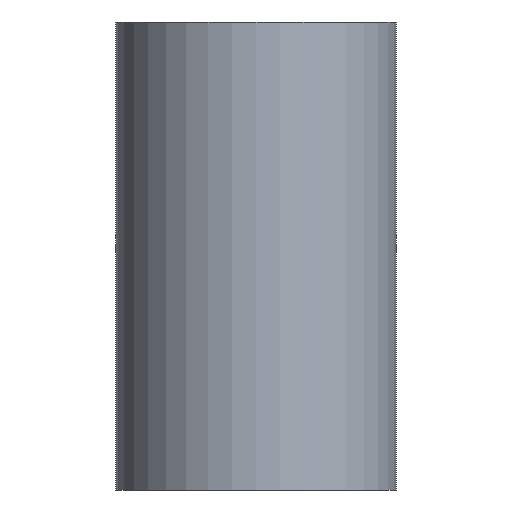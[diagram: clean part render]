
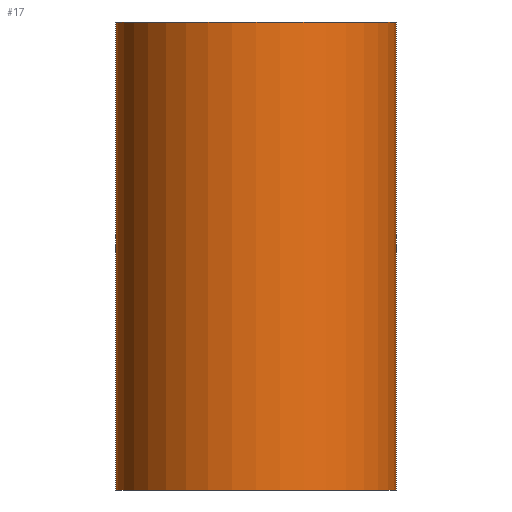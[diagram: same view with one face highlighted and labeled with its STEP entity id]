
A CAD part, front view. The second image highlights one B-rep face of the part: STEP entity #17.
In plain terms, the highlighted cylindrical face has radius 12 mm (diameter 24 mm), a full revolution.
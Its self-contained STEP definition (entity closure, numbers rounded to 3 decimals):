
#17 = ADVANCED_FACE('',(#18),#32,.T.);
#18 = FACE_BOUND('',#19,.F.);
#19 = EDGE_LOOP('',(#20,#50,#77,#78));
#20 = ORIENTED_EDGE('',*,*,#21,.T.);
#21 = EDGE_CURVE('',#22,#24,#26,.T.);
#22 = VERTEX_POINT('',#23);
#23 = CARTESIAN_POINT('',(-358.,30.,-35.));
#24 = VERTEX_POINT('',#25);
#25 = CARTESIAN_POINT('',(-358.,30.,5.));
#26 = SEAM_CURVE('',#27,(#31,#43),.PCURVE_S1.);
#27 = LINE('',#28,#29);
#28 = CARTESIAN_POINT('',(-358.,30.,-35.));
#29 = VECTOR('',#30,1.);
#30 = DIRECTION('',(0.,0.,1.));
#31 = PCURVE('',#32,#37);
#32 = CYLINDRICAL_SURFACE('',#33,12.);
#33 = AXIS2_PLACEMENT_3D('',#34,#35,#36);
#34 = CARTESIAN_POINT('',(-370.,30.,-35.));
#35 = DIRECTION('',(-0.,-0.,-1.));
#36 = DIRECTION('',(1.,0.,0.));
#37 = DEFINITIONAL_REPRESENTATION('',(#38),#42);
#38 = LINE('',#39,#40);
#39 = CARTESIAN_POINT('',(-0.,0.));
#40 = VECTOR('',#41,1.);
#41 = DIRECTION('',(-0.,-1.));
#42 = ( GEOMETRIC_REPRESENTATION_CONTEXT(2) 
PARAMETRIC_REPRESENTATION_CONTEXT() REPRESENTATION_CONTEXT('2D SPACE',''
  ) );
#43 = PCURVE('',#32,#44);
#44 = DEFINITIONAL_REPRESENTATION('',(#45),#49);
#45 = LINE('',#46,#47);
#46 = CARTESIAN_POINT('',(-6.283,0.));
#47 = VECTOR('',#48,1.);
#48 = DIRECTION('',(-0.,-1.));
#49 = ( GEOMETRIC_REPRESENTATION_CONTEXT(2) 
PARAMETRIC_REPRESENTATION_CONTEXT() REPRESENTATION_CONTEXT('2D SPACE',''
  ) );
#50 = ORIENTED_EDGE('',*,*,#51,.T.);
#51 = EDGE_CURVE('',#24,#24,#52,.T.);
#52 = SURFACE_CURVE('',#53,(#58,#65),.PCURVE_S1.);
#53 = CIRCLE('',#54,12.);
#54 = AXIS2_PLACEMENT_3D('',#55,#56,#57);
#55 = CARTESIAN_POINT('',(-370.,30.,5.));
#56 = DIRECTION('',(0.,0.,1.));
#57 = DIRECTION('',(1.,0.,0.));
#58 = PCURVE('',#32,#59);
#59 = DEFINITIONAL_REPRESENTATION('',(#60),#64);
#60 = LINE('',#61,#62);
#61 = CARTESIAN_POINT('',(-0.,-40.));
#62 = VECTOR('',#63,1.);
#63 = DIRECTION('',(-1.,0.));
#64 = ( GEOMETRIC_REPRESENTATION_CONTEXT(2) 
PARAMETRIC_REPRESENTATION_CONTEXT() REPRESENTATION_CONTEXT('2D SPACE',''
  ) );
#65 = PCURVE('',#66,#71);
#66 = PLANE('',#67);
#67 = AXIS2_PLACEMENT_3D('',#68,#69,#70);
#68 = CARTESIAN_POINT('',(-370.,30.,5.));
#69 = DIRECTION('',(0.,0.,1.));
#70 = DIRECTION('',(1.,0.,-0.));
#71 = DEFINITIONAL_REPRESENTATION('',(#72),#76);
#72 = CIRCLE('',#73,12.);
#73 = AXIS2_PLACEMENT_2D('',#74,#75);
#74 = CARTESIAN_POINT('',(0.,0.));
#75 = DIRECTION('',(1.,0.));
#76 = ( GEOMETRIC_REPRESENTATION_CONTEXT(2) 
PARAMETRIC_REPRESENTATION_CONTEXT() REPRESENTATION_CONTEXT('2D SPACE',''
  ) );
#77 = ORIENTED_EDGE('',*,*,#21,.F.);
#78 = ORIENTED_EDGE('',*,*,#79,.F.);
#79 = EDGE_CURVE('',#22,#22,#80,.T.);
#80 = SURFACE_CURVE('',#81,(#86,#93),.PCURVE_S1.);
#81 = CIRCLE('',#82,12.);
#82 = AXIS2_PLACEMENT_3D('',#83,#84,#85);
#83 = CARTESIAN_POINT('',(-370.,30.,-35.));
#84 = DIRECTION('',(0.,0.,1.));
#85 = DIRECTION('',(1.,0.,0.));
#86 = PCURVE('',#32,#87);
#87 = DEFINITIONAL_REPRESENTATION('',(#88),#92);
#88 = LINE('',#89,#90);
#89 = CARTESIAN_POINT('',(-0.,0.));
#90 = VECTOR('',#91,1.);
#91 = DIRECTION('',(-1.,0.));
#92 = ( GEOMETRIC_REPRESENTATION_CONTEXT(2) 
PARAMETRIC_REPRESENTATION_CONTEXT() REPRESENTATION_CONTEXT('2D SPACE',''
  ) );
#93 = PCURVE('',#94,#99);
#94 = PLANE('',#95);
#95 = AXIS2_PLACEMENT_3D('',#96,#97,#98);
#96 = CARTESIAN_POINT('',(-370.,30.,-35.));
#97 = DIRECTION('',(0.,0.,1.));
#98 = DIRECTION('',(1.,0.,-0.));
#99 = DEFINITIONAL_REPRESENTATION('',(#100),#104);
#100 = CIRCLE('',#101,12.);
#101 = AXIS2_PLACEMENT_2D('',#102,#103);
#102 = CARTESIAN_POINT('',(0.,0.));
#103 = DIRECTION('',(1.,0.));
#104 = ( GEOMETRIC_REPRESENTATION_CONTEXT(2) 
PARAMETRIC_REPRESENTATION_CONTEXT() REPRESENTATION_CONTEXT('2D SPACE',''
  ) );
